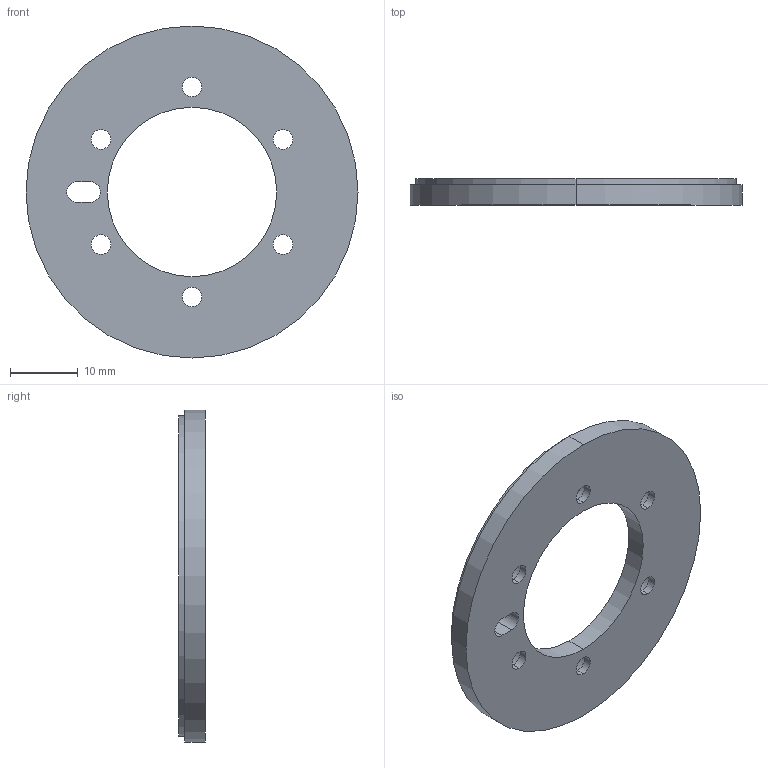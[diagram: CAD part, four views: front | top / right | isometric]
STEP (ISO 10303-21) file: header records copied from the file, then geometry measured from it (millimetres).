
FILE_DESCRIPTION (( 'STEP AP214' ), '1' );
FILE_NAME ('MRA049AF025EMHOO.STEP', '2022-02-18T11:42:57', ( '' ), ( '' ), 'SwSTEP 2.0', 'SolidWorks 2020', '' );
FILE_SCHEMA (( 'AUTOMOTIVE_DESIGN' ));
Length unit declared in the file: millimetre
Products named in the file (3): MN00715; MN00325D02_01; MRA049AF025EMHOO
Assembly tree (2 placements, depth 2):
  MRA049AF025EMHOO
    MN00715
    MN00325D02_01
Bounding box: 49 x 3.9 x 49 mm (x, y, z)
Volume: 4423.4 mm3; surface area: 5207.9 mm2
Topology: 2 solids, 2 shells, 46 faces, 108 edges, 72 vertices
Faces by surface type: cylinder 34, plane 12
Entity records: 1506 total; most frequent: DIRECTION 278, CARTESIAN_POINT 231, ORIENTED_EDGE 216, AXIS2_PLACEMENT_3D 119, EDGE_CURVE 108, VERTEX_POINT 72, EDGE_LOOP 70, CIRCLE 68
